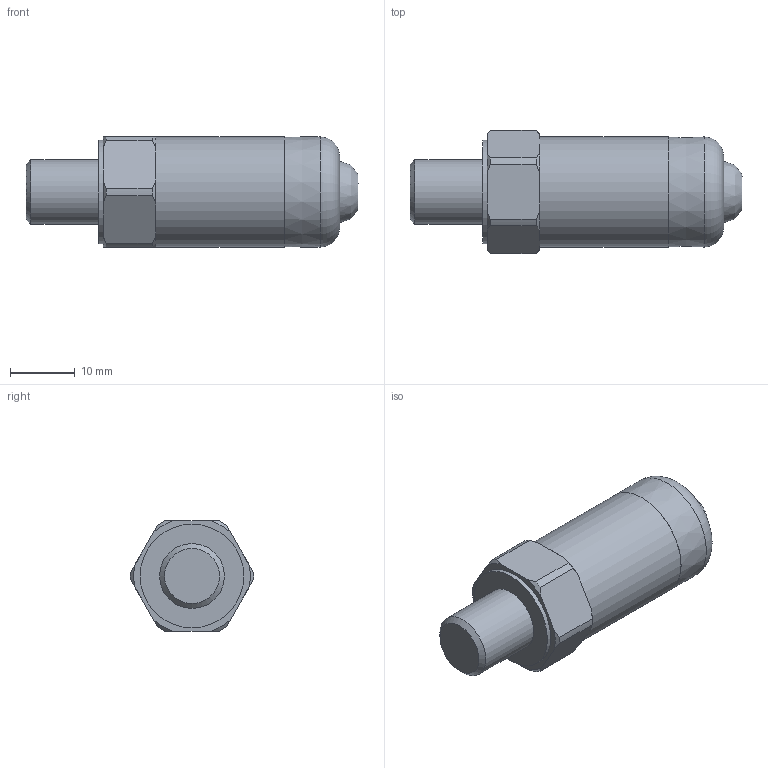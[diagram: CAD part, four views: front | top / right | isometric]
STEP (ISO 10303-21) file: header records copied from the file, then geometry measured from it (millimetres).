
FILE_DESCRIPTION(/* description */ (''),/* implementation_level */ '2;1');
FILE_NAME(/* name */ 'Z:\Engineering\Drawings\3D Library\Assemblies\Website\Premium Top\Compact\HS-170 Top Braided\HS-1700100210.stp',/* time_stamp */ '2023-03-16T16:51:47+00:00',/* author */ ('Ricardo.Peneda'),/* organization */ (''),/* preprocessor_version */ 'ST-DEVELOPER v18.1',/* originating_system */ 'Autodesk Inventor 2021',/* authorisation */ '');
FILE_SCHEMA (('AUTOMOTIVE_DESIGN { 1 0 10303 214 3 1 1 }'));
Length unit declared in the file: inch
Products named in the file (1): HS-1700100210_Shrinkwrap_1
Bounding box: 51.25 x 19 x 17.01 mm (x, y, z)
Volume: 5372.3 mm3; surface area: 4976.7 mm2
Topology: 3 solids, 3 shells, 65 faces, 174 edges, 118 vertices
Faces by surface type: cone 28, plane 21, cylinder 14, torus 1, bspline 1
Full cylindrical faces by diameter (mm): 5 x1, 5.359 x1, 6.35 x1, 7 x1, 10 x1, 15.05 x1, 16 x1, 17 x1
Entity records: 2194 total; most frequent: CARTESIAN_POINT 431, DIRECTION 374, ORIENTED_EDGE 346, EDGE_CURVE 173, AXIS2_PLACEMENT_3D 160, VERTEX_POINT 118, CIRCLE 95, EDGE_LOOP 71
